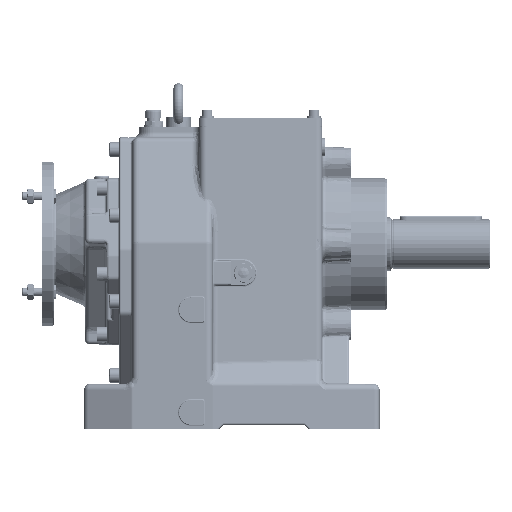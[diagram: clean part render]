
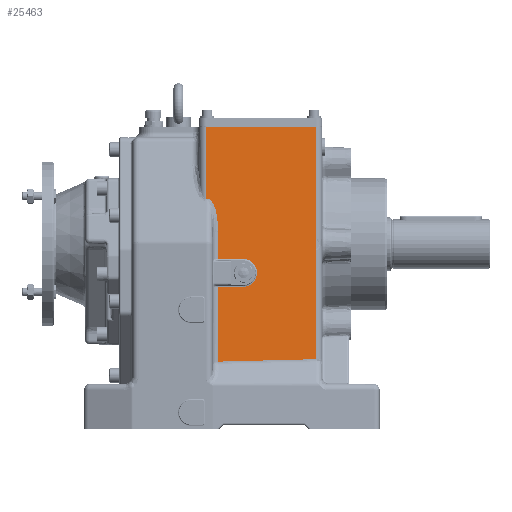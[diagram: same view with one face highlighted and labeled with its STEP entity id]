
A CAD part, left-side view. The second image highlights one B-rep face of the part: STEP entity #25463.
In plain terms, the highlighted planar face has unit normal (-0.991, -0.131, 0).
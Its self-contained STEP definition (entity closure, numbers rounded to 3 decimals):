
#13708=CARTESIAN_POINT('',(-158.557,140.956,371.));
#13709=VERTEX_POINT('',#13708);
#13717=CARTESIAN_POINT('',(-140.916,6.956,371.));
#13718=VERTEX_POINT('',#13717);
#13719=CARTESIAN_POINT('',(-140.916,6.956,371.));
#13720=DIRECTION('',(-0.131,0.991,0.0));
#13721=VECTOR('',#13720,135.156);
#13722=LINE('',#13719,#13721);
#13723=EDGE_CURVE('',#13718,#13709,#13722,.T.);
#14526=CARTESIAN_POINT('',(-152.664,96.195,210.));
#14527=VERTEX_POINT('',#14526);
#14535=CARTESIAN_POINT('',(-156.627,126.294,210.));
#14536=VERTEX_POINT('',#14535);
#14537=CARTESIAN_POINT('',(-152.664,96.195,210.));
#14538=DIRECTION('',(-0.131,0.991,0.0));
#14539=VECTOR('',#14538,30.359);
#14540=LINE('',#14537,#14539);
#14541=EDGE_CURVE('',#14527,#14536,#14540,.T.);
#25005=CARTESIAN_POINT('',(-156.627,126.294,176.));
#25006=VERTEX_POINT('',#25005);
#25014=CARTESIAN_POINT('',(-152.664,96.195,176.));
#25015=VERTEX_POINT('',#25014);
#25016=CARTESIAN_POINT('',(-156.627,126.294,176.));
#25017=DIRECTION('',(0.131,-0.991,0.0));
#25018=VECTOR('',#25017,30.359);
#25019=LINE('',#25016,#25018);
#25020=EDGE_CURVE('',#25006,#25015,#25019,.T.);
#25325=CARTESIAN_POINT('',(-152.664,96.195,193.));
#25326=DIRECTION('',(-0.991,-0.131,0.0));
#25327=DIRECTION('',(0.131,-0.991,0.0));
#25328=AXIS2_PLACEMENT_3D('',#25325,#25326,#25327);
#25329=ELLIPSE('',#25328,17.032,17.);
#25330=EDGE_CURVE('',#25015,#14527,#25329,.T.);
#25389=CARTESIAN_POINT('',(-140.0,0.,58.0));
#25390=DIRECTION('',(-0.991,-0.131,0.0));
#25391=DIRECTION('',(0.0,0.0,1.0));
#25392=AXIS2_PLACEMENT_3D('',#25389,#25390,#25391);
#25393=PLANE('',#25392);
#25394=ORIENTED_EDGE('',*,*,#13723,.T.);
#25395=CARTESIAN_POINT('',(-158.557,140.956,283.48));
#25396=VERTEX_POINT('',#25395);
#25397=CARTESIAN_POINT('',(-158.557,140.956,283.48));
#25398=DIRECTION('',(0.0,0.0,1.0));
#25399=VECTOR('',#25398,87.52);
#25400=LINE('',#25397,#25399);
#25401=EDGE_CURVE('',#25396,#13709,#25400,.T.);
#25402=ORIENTED_EDGE('',*,*,#25401,.F.);
#25403=CARTESIAN_POINT('',(-156.627,126.294,242.166));
#25404=VERTEX_POINT('',#25403);
#25405=CARTESIAN_POINT('',(-158.733,142.294,236.379));
#25406=DIRECTION('',(-0.991,-0.131,0.));
#25407=DIRECTION('',(0.006,-0.047,0.999));
#25408=AXIS2_PLACEMENT_3D('',#25405,#25406,#25407);
#25409=ELLIPSE('',#25408,47.185,16.0);
#25410=EDGE_CURVE('',#25404,#25396,#25409,.T.);
#25411=ORIENTED_EDGE('',*,*,#25410,.F.);
#25412=CARTESIAN_POINT('',(-156.627,126.294,210.));
#25413=DIRECTION('',(0.0,0.0,1.0));
#25414=VECTOR('',#25413,32.166);
#25415=LINE('',#25412,#25414);
#25416=EDGE_CURVE('',#14536,#25404,#25415,.T.);
#25417=ORIENTED_EDGE('',*,*,#25416,.F.);
#25418=ORIENTED_EDGE('',*,*,#14541,.F.);
#25419=ORIENTED_EDGE('',*,*,#25330,.F.);
#25420=ORIENTED_EDGE('',*,*,#25020,.F.);
#25421=CARTESIAN_POINT('',(-156.627,126.294,84.858));
#25422=VERTEX_POINT('',#25421);
#25423=CARTESIAN_POINT('',(-156.627,126.294,84.858));
#25424=DIRECTION('',(0.0,0.0,1.0));
#25425=VECTOR('',#25424,91.142);
#25426=LINE('',#25423,#25425);
#25427=EDGE_CURVE('',#25422,#25006,#25426,.T.);
#25428=ORIENTED_EDGE('',*,*,#25427,.F.);
#25429=CARTESIAN_POINT('',(-140.916,6.956,87.838));
#25430=VERTEX_POINT('',#25429);
#25431=CARTESIAN_POINT('',(-140.916,6.956,87.838));
#25432=DIRECTION('',(-0.13,0.991,-0.025));
#25433=VECTOR('',#25432,120.405);
#25434=LINE('',#25431,#25433);
#25435=EDGE_CURVE('',#25430,#25422,#25434,.T.);
#25436=ORIENTED_EDGE('',*,*,#25435,.F.);
#25437=CARTESIAN_POINT('',(-140.916,6.956,221.283));
#25438=VERTEX_POINT('',#25437);
#25439=CARTESIAN_POINT('',(-140.916,6.956,221.283));
#25440=DIRECTION('',(0.0,0.0,-1.0));
#25441=VECTOR('',#25440,133.445);
#25442=LINE('',#25439,#25441);
#25443=EDGE_CURVE('',#25438,#25430,#25442,.T.);
#25444=ORIENTED_EDGE('',*,*,#25443,.F.);
#25445=CARTESIAN_POINT('',(-140.916,6.956,234.717));
#25446=VERTEX_POINT('',#25445);
#25447=CARTESIAN_POINT('',(-140.916,6.956,234.717));
#25448=CARTESIAN_POINT('',(-140.916,6.956,232.158));
#25449=CARTESIAN_POINT('',(-140.906,6.885,227.68));
#25450=CARTESIAN_POINT('',(-140.916,6.956,223.202));
#25451=CARTESIAN_POINT('',(-140.916,6.956,221.283));
#25452=B_SPLINE_CURVE_WITH_KNOTS('',3,(#25447,#25448,#25449,#25450,#25451),.UNSPECIFIED.,.F.,.U.,(4,1,4),(0.,0.768,1.343),.UNSPECIFIED.);
#25453=EDGE_CURVE('',#25446,#25438,#25452,.T.);
#25454=ORIENTED_EDGE('',*,*,#25453,.F.);
#25455=CARTESIAN_POINT('',(-140.916,6.956,371.));
#25456=DIRECTION('',(0.0,0.0,-1.0));
#25457=VECTOR('',#25456,136.283);
#25458=LINE('',#25455,#25457);
#25459=EDGE_CURVE('',#13718,#25446,#25458,.T.);
#25460=ORIENTED_EDGE('',*,*,#25459,.F.);
#25461=EDGE_LOOP('',(#25394,#25402,#25411,#25417,#25418,#25419,#25420,#25428,#25436,#25444,#25454,#25460));
#25462=FACE_OUTER_BOUND('',#25461,.T.);
#25463=ADVANCED_FACE('',(#25462),#25393,.T.);
